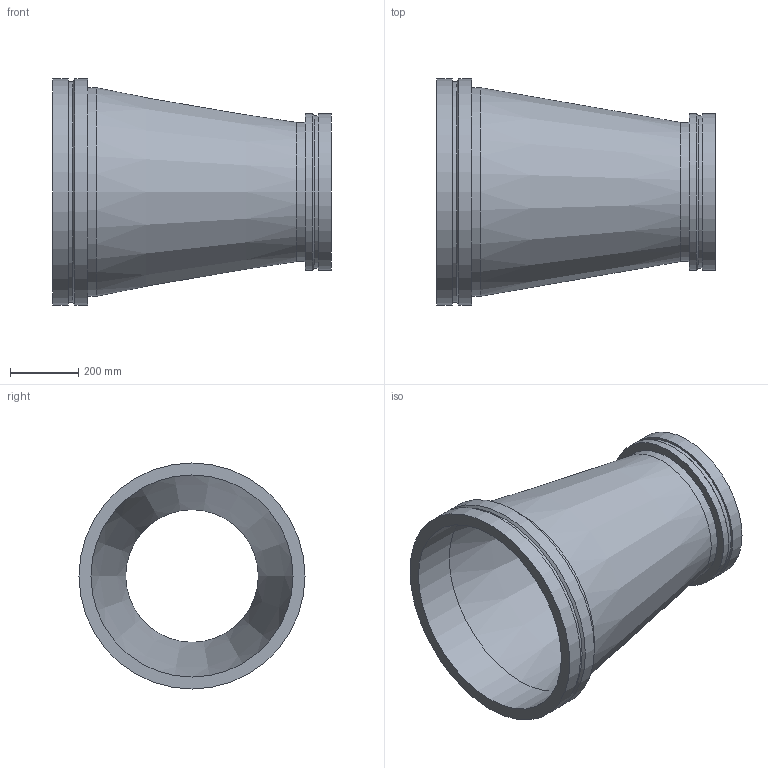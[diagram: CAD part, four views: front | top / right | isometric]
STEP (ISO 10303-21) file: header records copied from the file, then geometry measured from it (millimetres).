
FILE_DESCRIPTION(/* description */ ('VIC REDUCER CONCENTRIC No W50 VR','CAx-IF Rec.Pracs.---Representation and Presentation of Product Manufacturing Information (PMI)---4.0---2014-10-13'),/* implementation_level */ '2;1');
FILE_NAME(/* name */ 'C:\Users\kkamble\AppData\Roaming\Autodesk\ApplicationPlugins\Back Up\Victaulic_Vic-Ring_Reducer Concentric_No W50 VR (AGR)\Victaulic_Vic-Ring_Reducer Concentric_No W50 VR (AGR)_24.0x16.0 (600x400).stp',/* time_stamp */ '2020-09-10T11:45:40+05:00',/* author */ ('cps_temp'),/* organization */ ('Victaulic'),/* preprocessor_version */ 'ST-DEVELOPER v17.2',/* originating_system */ 'Autodesk Inventor 2019',/* authorisation */ '');
FILE_SCHEMA (('AP242_MANAGED_MODEL_BASED_3D_ENGINEERING_MIM_LF { 1 0 10303 442 1 1 4 }'));
Length unit declared in the file: inch
Products named in the file (1): W50 VR-24.0x16.0
Bounding box: 812.8 x 660.4 x 660.4 mm (x, y, z)
Volume: 19599661.9 mm3; surface area: 2851484.5 mm2
Topology: 1 solids, 1 shells, 20 faces, 54 edges, 40 vertices
Faces by surface type: cylinder 10, plane 6, cone 4
Full cylindrical faces by diameter (mm): 387.35 x1, 406.4 x1, 444.5 x1, 457.2 x2, 590.55 x1, 609.6 x1, 645.922 x1, 660.4 x2
Entity records: 830 total; most frequent: DIRECTION 162, CARTESIAN_POINT 132, ORIENTED_EDGE 108, AXIS2_PLACEMENT_3D 74, EDGE_CURVE 54, CIRCLE 40, VERTEX_POINT 40, EDGE_LOOP 26
